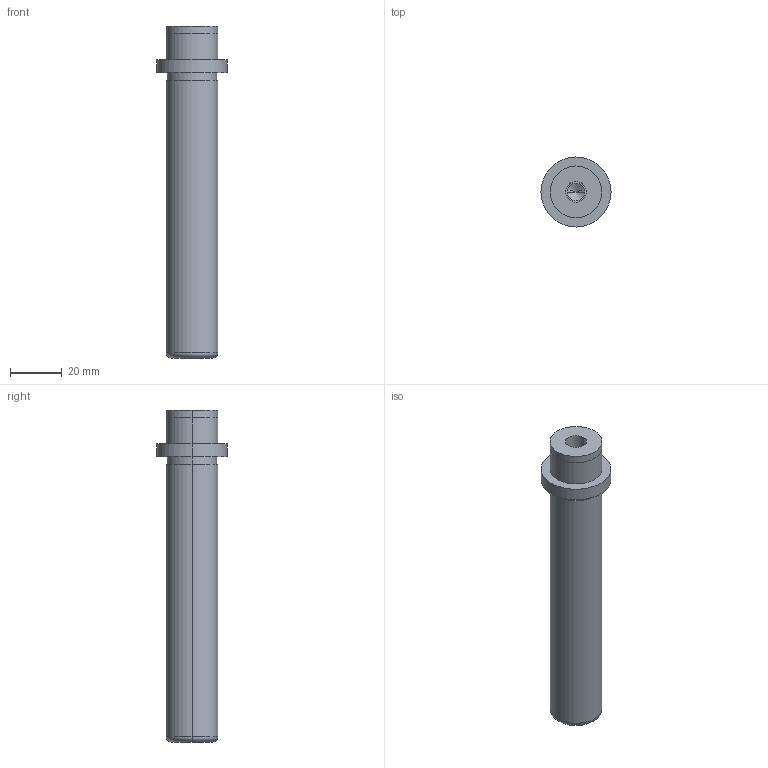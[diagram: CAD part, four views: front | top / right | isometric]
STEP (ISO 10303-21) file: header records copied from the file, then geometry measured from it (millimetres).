
FILE_DESCRIPTION(/* description */ (''),/* implementation_level */ '2;1');
FILE_NAME(/* name */ '3d_sgpw20-115_05289_r00.stp',/* time_stamp */ '2011-01-10T14:11:04+09:00',/* author */ ('MISUMI'),/* organization */ (''),/* preprocessor_version */ 'ST-DEVELOPER v11',/* originating_system */ 'UGS - NX 5.0',/* authorisation */ '');
FILE_SCHEMA (('CONFIG_CONTROL_DESIGN'));
Length unit declared in the file: millimetre
Products named in the file (1): 3d_sgpw20-115_05289_r00
Bounding box: 27 x 27 x 128 mm (x, y, z)
Volume: 39358.6 mm3; surface area: 10295.1 mm2
Topology: 1 solids, 1 shells, 31 faces, 64 edges, 38 vertices
Faces by surface type: cylinder 18, plane 7, cone 4, torus 2
Entity records: 890 total; most frequent: DIRECTION 162, CARTESIAN_POINT 130, ORIENTED_EDGE 120, AXIS2_PLACEMENT_3D 70, EDGE_CURVE 60, EDGE_LOOP 38, CIRCLE 38, VERTEX_POINT 38
